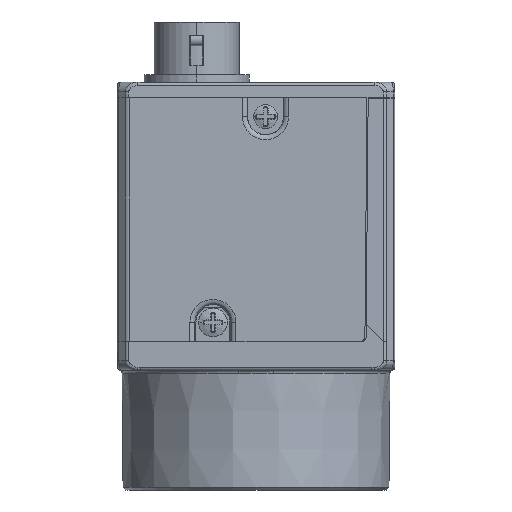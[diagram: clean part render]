
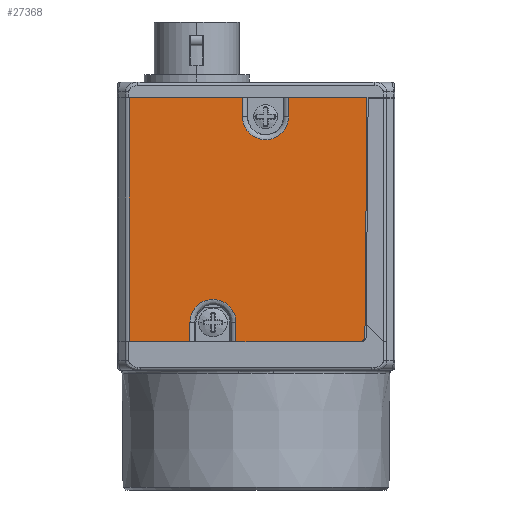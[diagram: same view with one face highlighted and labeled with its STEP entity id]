
A CAD part, left-side view. The second image highlights one B-rep face of the part: STEP entity #27368.
In plain terms, the highlighted planar face has unit normal (-1, 0, 0).
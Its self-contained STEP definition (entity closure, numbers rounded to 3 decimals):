
#1708=DIRECTION('',(0.,1.,0.));
#1709=VECTOR('',#1708,6.343);
#1710=CARTESIAN_POINT('',(-14.5,6.908,-2.5));
#1711=LINE('',#1710,#1709);
#1712=CARTESIAN_POINT('',(-14.5,-1.,21.));
#1713=DIRECTION('',(-1.,0.,0.));
#1714=DIRECTION('',(0.,1.,0.));
#1715=AXIS2_PLACEMENT_3D('',#1712,#1713,#1714);
#1717=CARTESIAN_POINT('',(-14.5,-1.,21.));
#1718=DIRECTION('',(-1.,0.,0.));
#1719=DIRECTION('',(0.,0.993,-0.119));
#1720=AXIS2_PLACEMENT_3D('',#1717,#1718,#1719);
#1722=DIRECTION('',(0.,0.009,-1.));
#1723=VECTOR('',#1722,24.906);
#1724=CARTESIAN_POINT('',(-14.5,-11.6,
23.));
#1725=LINE('',#1724,#1723);
#1726=CARTESIAN_POINT('',(-14.5,-10.783,-1.9));
#1727=DIRECTION('',(1.,0.,0.));
#1728=DIRECTION('',(0.,-1.,-0.009));
#1729=AXIS2_PLACEMENT_3D('',#1726,#1727,#1728);
#1731=DIRECTION('',(0.,1.,0.));
#1732=VECTOR('',#1731,12.874);
#1733=CARTESIAN_POINT('',(-14.5,-10.783,-2.5));
#1734=LINE('',#1733,#1732);
#1735=CARTESIAN_POINT('',(-14.5,4.5,-0.5));
#1736=DIRECTION('',(-1.,0.,0.));
#1737=DIRECTION('',(0.,-1.,0.));
#1738=AXIS2_PLACEMENT_3D('',#1735,#1736,#1737);
#1740=CARTESIAN_POINT('',(-14.5,4.5,-0.5));
#1741=DIRECTION('',(-1.,0.,0.));
#1742=DIRECTION('',(0.,-0.993,0.119));
#1743=AXIS2_PLACEMENT_3D('',#1740,#1741,#1742);
#1745=CARTESIAN_POINT('',(-14.5,13.251,
-2.5));
#1775=CARTESIAN_POINT('',(-14.5,13.251,23.));
#1777=DIRECTION('',(0.,0.,-1.));
#1778=VECTOR('',#1777,25.5);
#1779=CARTESIAN_POINT('',(-14.5,13.251,23.));
#1780=LINE('',#1779,#1778);
#3061=DIRECTION('',(0.,1.,0.));
#3062=VECTOR('',#3061,11.843);
#3063=CARTESIAN_POINT('',(-14.5,1.408,23.));
#3064=LINE('',#3063,#3062);
#3138=DIRECTION('',(0.,1.,0.));
#3139=VECTOR('',#3138,8.192);
#3140=CARTESIAN_POINT('',(-14.5,-11.6,
23.));
#3141=LINE('',#3140,#3139);
#12896=DIRECTION('',(0.,0.,-1.));
#12897=VECTOR('',#12896,2.);
#12898=CARTESIAN_POINT('',(-14.5,-3.408,23.));
#12899=LINE('',#12898,#12897);
#12928=DIRECTION('',(0.,0.,1.));
#12929=VECTOR('',#12928,2.);
#12930=CARTESIAN_POINT('',(-14.5,1.408,21.));
#12931=LINE('',#12930,#12929);
#17679=DIRECTION('',(0.,0.,-1.));
#17680=VECTOR('',#17679,2.);
#17681=CARTESIAN_POINT('',(-14.5,2.092,-0.5));
#17682=LINE('',#17681,#17680);
#17729=DIRECTION('',(0.,0.,1.));
#17730=VECTOR('',#17729,2.);
#17731=CARTESIAN_POINT('',(-14.5,6.908,-2.5));
#17732=LINE('',#17731,#17730);
#21231=CARTESIAN_POINT('',(-14.5,-10.783,-2.5));
#21232=VERTEX_POINT('',#21231);
#21239=CARTESIAN_POINT('',(-14.5,2.092,-2.5));
#21240=VERTEX_POINT('',#21239);
#21241=CARTESIAN_POINT('',(-14.5,6.908,-2.5));
#21242=VERTEX_POINT('',#21241);
#21265=VERTEX_POINT('',#1745);
#21272=VERTEX_POINT('',#1775);
#21286=CARTESIAN_POINT('',(-14.5,1.408,23.));
#21287=VERTEX_POINT('',#21286);
#21288=CARTESIAN_POINT('',(-14.5,1.408,21.));
#21289=VERTEX_POINT('',#21288);
#21290=CARTESIAN_POINT('',(-14.5,1.391,20.713));
#21291=VERTEX_POINT('',#21290);
#21292=CARTESIAN_POINT('',(-14.5,-3.408,21.));
#21293=VERTEX_POINT('',#21292);
#21294=CARTESIAN_POINT('',(-14.5,-3.408,23.));
#21295=VERTEX_POINT('',#21294);
#21296=CARTESIAN_POINT('',(-14.5,-11.6,
23.));
#21297=VERTEX_POINT('',#21296);
#21298=CARTESIAN_POINT('',(-14.5,-11.383,-1.905));
#21299=VERTEX_POINT('',#21298);
#21300=CARTESIAN_POINT('',(-14.5,2.092,-0.5));
#21301=VERTEX_POINT('',#21300);
#21302=CARTESIAN_POINT('',(-14.5,2.109,-0.213));
#21303=VERTEX_POINT('',#21302);
#21304=CARTESIAN_POINT('',(-14.5,6.908,-0.5));
#21305=VERTEX_POINT('',#21304);
#27333=CARTESIAN_POINT('',(-14.5,0.826,10.25));
#27334=DIRECTION('',(1.,0.,0.));
#27335=DIRECTION('',(0.,-1.,0.));
#27336=AXIS2_PLACEMENT_3D('',#27333,#27334,#27335);
#27337=PLANE('',#27336);
#27338=ORIENTED_EDGE('',*,*,#27302,.T.);
#27340=ORIENTED_EDGE('',*,*,#27339,.F.);
#27342=ORIENTED_EDGE('',*,*,#27341,.F.);
#27344=ORIENTED_EDGE('',*,*,#27343,.F.);
#27346=ORIENTED_EDGE('',*,*,#27345,.T.);
#27348=ORIENTED_EDGE('',*,*,#27347,.T.);
#27350=ORIENTED_EDGE('',*,*,#27349,.F.);
#27352=ORIENTED_EDGE('',*,*,#27351,.F.);
#27354=ORIENTED_EDGE('',*,*,#27353,.T.);
#27356=ORIENTED_EDGE('',*,*,#27355,.T.);
#27357=ORIENTED_EDGE('',*,*,#27306,.T.);
#27359=ORIENTED_EDGE('',*,*,#27358,.F.);
#27361=ORIENTED_EDGE('',*,*,#27360,.T.);
#27363=ORIENTED_EDGE('',*,*,#27362,.T.);
#27365=ORIENTED_EDGE('',*,*,#27364,.F.);
#27366=EDGE_LOOP('',(#27338,#27340,#27342,#27344,#27346,#27348,#27350,#27352,
#27354,#27356,#27357,#27359,#27361,#27363,#27365));
#27367=FACE_OUTER_BOUND('',#27366,.F.);
#27368=ADVANCED_FACE('',(#27367),#27337,.F.);
#1716=CIRCLE('',#1715,2.408);
#1721=CIRCLE('',#1720,2.408);
#1730=CIRCLE('',#1729,0.6);
#1739=CIRCLE('',#1738,2.408);
#1744=CIRCLE('',#1743,2.408);
#27302=EDGE_CURVE('',#21242,#21265,#1711,.T.);
#27306=EDGE_CURVE('',#21232,#21240,#1734,.T.);
#27339=EDGE_CURVE('',#21272,#21265,#1780,.T.);
#27341=EDGE_CURVE('',#21287,#21272,#3064,.T.);
#27343=EDGE_CURVE('',#21289,#21287,#12931,.T.);
#27345=EDGE_CURVE('',#21289,#21291,#1716,.T.);
#27347=EDGE_CURVE('',#21291,#21293,#1721,.T.);
#27349=EDGE_CURVE('',#21295,#21293,#12899,.T.);
#27351=EDGE_CURVE('',#21297,#21295,#3141,.T.);
#27353=EDGE_CURVE('',#21297,#21299,#1725,.T.);
#27355=EDGE_CURVE('',#21299,#21232,#1730,.T.);
#27358=EDGE_CURVE('',#21301,#21240,#17682,.T.);
#27360=EDGE_CURVE('',#21301,#21303,#1739,.T.);
#27362=EDGE_CURVE('',#21303,#21305,#1744,.T.);
#27364=EDGE_CURVE('',#21242,#21305,#17732,.T.);
